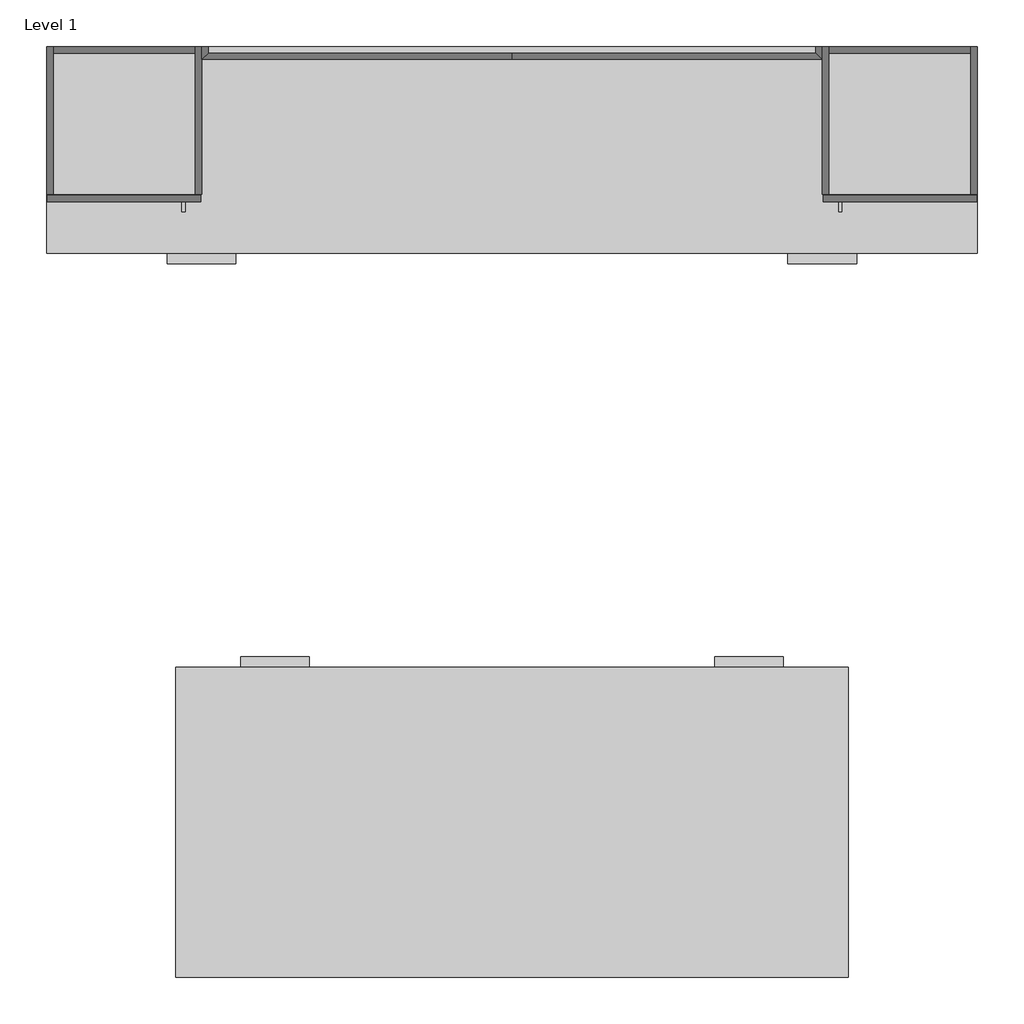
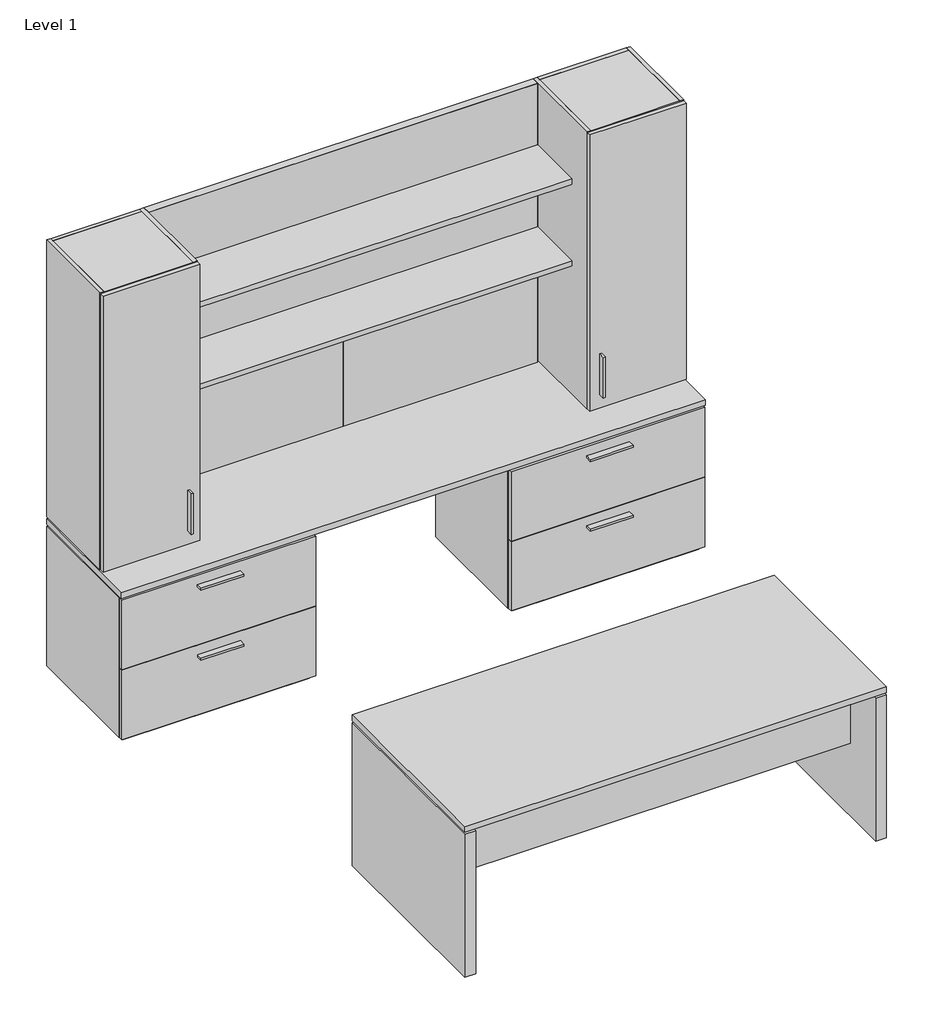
# One storey: 5 proxies.
"""IFC4 building model written with IfcOpenShell, lengths in millimetres."""

import ifcopenshell
import ifcopenshell.guid

model = None  # the IFC model being written
_history = None  # IfcOwnerHistory: only IFC2X3 demands one
_inside = {}  # id of a spatial element -> (the spatial element, [elements in it])
_under = {}  # id of a project, library or spatial element -> (it, [spatial elements below it])
_declared = {}  # id of a project -> (the project, [libraries it declares])
_typed = {}  # id of a type object -> (the type object, [elements of that type])
_made_of = {}  # id of a material, layer set ... -> (it, [elements and type objects made of it])


def new_model(schema):
    """Start an empty IFC model of exactly this schema.

    Asked for "IFC4X3", IfcOpenShell would pick the latest addendum, in which some entities
    have other attributes; the version numbers below select the first issue.
    IFC2X3 requires an IfcOwnerHistory on every rooted entity: one is made here for all.
    """
    global model, _history
    if schema == "IFC4X3":
        model = ifcopenshell.file(schema_version=(4, 3, 0, 0))
    else:
        model = ifcopenshell.file(schema=schema)
    _inside.clear()
    _under.clear()
    _declared.clear()
    _typed.clear()
    _made_of.clear()
    _history = None
    if model.schema == "IFC2X3":
        org = make("IfcOrganization", Name="unknown")
        user = make(
            "IfcPersonAndOrganization",
            ThePerson=make("IfcPerson", FamilyName="unknown"),
            TheOrganization=org,
        )
        app = make(
            "IfcApplication",
            ApplicationDeveloper=org,
            Version="unknown",
            ApplicationFullName="unknown",
            ApplicationIdentifier="unknown",
        )
        _history = make(
            "IfcOwnerHistory",
            OwningUser=user,
            OwningApplication=app,
            ChangeAction="ADDED",
            CreationDate=0,
        )
    return model


def make(cls, **values):
    """One entity of the class cls with the attributes given. An attribute that is None is left unset."""
    return model.create_entity(
        cls, **{name: value for name, value in values.items() if value is not None}
    )


def rooted(cls, **values):
    """An entity with a GlobalId (a new one), such as an element, a storey or a relation."""
    return make(cls, GlobalId=ifcopenshell.guid.new(), OwnerHistory=_history, **values)


def si_unit(unit_type, name, prefix=None):
    """IfcSIUnit, for example si_unit("LENGTHUNIT", "METRE", prefix="MILLI")."""
    return make("IfcSIUnit", UnitType=unit_type, Prefix=prefix, Name=name)


def assignment(units):
    """IfcUnitAssignment: the units of a project."""
    return None if units is None else make("IfcUnitAssignment", Units=units)


def point(xyz):
    """IfcCartesianPoint."""
    return None if xyz is None else make("IfcCartesianPoint", Coordinates=xyz)


def direction(xyz):
    """IfcDirection."""
    return None if xyz is None else make("IfcDirection", DirectionRatios=xyz)


def frame(location, z_axis=None, x_axis=None):
    """IfcAxis2Placement3D, a coordinate frame: its origin and axes. An axis left out is left unset."""
    return make(
        "IfcAxis2Placement3D",
        Location=point(location),
        Axis=direction(z_axis),
        RefDirection=direction(x_axis),
    )


def origin():
    """The frame at (0, 0, 0) with its axes left unset."""
    return frame((0.0, 0.0, 0.0))


def origin_with_axes():
    """The frame at (0, 0, 0) with the z axis (0, 0, 1) and the x axis (1, 0, 0) written out."""
    return frame((0.0, 0.0, 0.0), z_axis=(0.0, 0.0, 1.0), x_axis=(1.0, 0.0, 0.0))


def place(relative_to, where):
    """IfcLocalPlacement: puts the frame where relative to a parent placement (None: the world)."""
    return make(
        "IfcLocalPlacement", PlacementRelTo=relative_to, RelativePlacement=where
    )


def context(
    kind, dimensions, precision=None, world=None, true_north=None, identifier=None
):
    """IfcGeometricRepresentationContext, for example the 3D "Model" context."""
    return make(
        "IfcGeometricRepresentationContext",
        ContextIdentifier=identifier,
        ContextType=kind,
        CoordinateSpaceDimension=dimensions,
        Precision=precision,
        WorldCoordinateSystem=world,
        TrueNorth=true_north,
    )


def project(units=None, contexts=None):
    """IfcProject with its units and contexts."""
    return rooted(
        "IfcProject",
        Name="project",
        RepresentationContexts=contexts,
        UnitsInContext=assignment(units),
    )


def spatial(cls, under=None, at=None, **own):
    """A site, building, storey or space (cls), placed at a placement, below another one or the project."""
    s = rooted(cls, ObjectPlacement=at, **own)
    if under is not None:
        _under.setdefault(under.id(), (under, []))[1].append(s)
    return s


def polyline(points):
    """IfcPolyline through the points."""
    return make("IfcPolyline", Points=[point(p) for p in points])


def outline(outer, holes=None, kind="AREA"):
    """IfcArbitraryClosedProfileDef: a profile drawn as a closed curve; with holes, ...WithVoids."""
    if holes is None:
        return make("IfcArbitraryClosedProfileDef", ProfileType=kind, OuterCurve=outer)
    return make(
        "IfcArbitraryProfileDefWithVoids",
        ProfileType=kind,
        OuterCurve=outer,
        InnerCurves=holes,
    )


def extrude(swept, where, along, depth):
    """IfcExtrudedAreaSolid: the profile swept, set in the frame where, extruded along a direction by depth."""
    return make(
        "IfcExtrudedAreaSolid",
        SweptArea=swept,
        Position=where,
        ExtrudedDirection=direction(along),
        Depth=depth,
    )


def faces_of(points, faces, orient=None, outer=None):
    """IfcFace entities. A face is a list of loops; a loop is a list of indices into points, from 0.

    orient and outer hold one flag for each loop. By default every Orientation is true, the
    first loop of a face is its IfcFaceOuterBound and the others are IfcFaceBound.
    """
    made = []
    for i, loops in enumerate(faces):
        bounds = []
        for j, loop in enumerate(loops):
            is_outer = j == 0 if outer is None else outer[i][j]
            bounds.append(
                make(
                    "IfcFaceOuterBound" if is_outer else "IfcFaceBound",
                    Bound=make("IfcPolyLoop", Polygon=[points[k] for k in loop]),
                    Orientation=True if orient is None else orient[i][j],
                )
            )
        made.append(make("IfcFace", Bounds=bounds))
    return made


def faceted_brep(points, faces, orient=None, outer=None, voids=None):
    """IfcFacetedBrep: a solid bounded by flat faces; with voids (closed shells), ...WithVoids."""
    shared = [point(p) for p in points]
    hull = make("IfcClosedShell", CfsFaces=faces_of(shared, faces, orient, outer))
    if voids is None:
        return make("IfcFacetedBrep", Outer=hull)
    return make(
        "IfcFacetedBrepWithVoids",
        Outer=hull,
        Voids=[
            make(cls, CfsFaces=faces_of(shared, fs, o, b)) for cls, fs, o, b in voids
        ],
    )


def shape(context_of_items, identifier, shape_type, items):
    """IfcShapeRepresentation: the items that make up one representation, for example the "Body"."""
    return make(
        "IfcShapeRepresentation",
        ContextOfItems=context_of_items,
        RepresentationIdentifier=identifier,
        RepresentationType=shape_type,
        Items=items,
    )


def source(mapping_origin, context_of_items, identifier, shape_type, items):
    """IfcRepresentationMap: a shape defined once, which mapped items show again and again."""
    return make(
        "IfcRepresentationMap",
        MappingOrigin=mapping_origin,
        MappedRepresentation=shape(context_of_items, identifier, shape_type, items),
    )


def transform(
    local_origin,
    x_axis=None,
    y_axis=None,
    z_axis=None,
    scale=None,
    scale2=None,
    scale3=None,
    uniform=True,
):
    """IfcCartesianTransformationOperator3D, or its non-uniform kind. x_axis, y_axis, z_axis: its Axis1, 2, 3."""
    if uniform:
        return make(
            "IfcCartesianTransformationOperator3D",
            Axis1=direction(x_axis),
            Axis2=direction(y_axis),
            LocalOrigin=point(local_origin),
            Scale=scale,
            Axis3=direction(z_axis),
        )
    return make(
        "IfcCartesianTransformationOperator3DnonUniform",
        Axis1=direction(x_axis),
        Axis2=direction(y_axis),
        LocalOrigin=point(local_origin),
        Scale=scale,
        Axis3=direction(z_axis),
        Scale2=scale2,
        Scale3=scale3,
    )


def mapped(mapping_source, mapping_target):
    """IfcMappedItem: shows the shape of a source again, moved by a transform."""
    return make(
        "IfcMappedItem", MappingSource=mapping_source, MappingTarget=mapping_target
    )


def made_of(thing, what):
    """Note that an element or type object is made of a material, layer set ...; save() writes the relation."""
    if what is not None:
        _made_of.setdefault(what.id(), (what, []))[1].append(thing)
    return thing


def element(
    cls,
    number,
    at=None,
    inside=None,
    cuts=None,
    type_object=None,
    material=None,
    context=None,
    identifier="Body",
    shape_type=None,
    held_by="IfcProductDefinitionShape",
    body=None,
    shapes=None,
    **own,
):
    """One element of the class cls, such as IfcWall. Its Tag is "e" and its number.

    at: its placement. inside: the storey or other place that contains it. cuts: it is an
    opening in that element (IfcRelVoidsElement). A single representation is given by context,
    identifier, shape_type and body (its items); several are given by shapes. held_by: the class
    of the entity that holds the representations. save() writes the other relations.
    """
    e = rooted(cls, Tag="e%d" % number, ObjectPlacement=at, **own)
    if body is not None:
        shapes = [shape(context, identifier, shape_type, body)]
    if shapes is not None:
        e.Representation = make(held_by, Representations=shapes)
    if inside is not None:
        _inside.setdefault(inside.id(), (inside, []))[1].append(e)
    if cuts is not None:
        rooted(
            "IfcRelVoidsElement", RelatingBuildingElement=cuts, RelatedOpeningElement=e
        )
    if type_object is not None:
        _typed.setdefault(type_object.id(), (type_object, []))[1].append(e)
    return made_of(e, material)


def aggregate(whole, parts):
    """IfcRelAggregates: a whole, such as a stair, and the parts it consists of."""
    return rooted("IfcRelAggregates", RelatingObject=whole, RelatedObjects=parts)


def save(model, path):
    """Write the relations noted so far, then the file.

    IfcRelAggregates (storeys below a building ...), IfcRelContainedInSpatialStructure (elements
    in a storey), IfcRelDefinesByType, IfcRelAssociatesMaterial and IfcRelDeclares: one each for
    every whole, place, type object, material and project.
    """
    for whole, parts in _under.values():
        aggregate(whole, parts)
    for where, things in _inside.values():
        rooted(
            "IfcRelContainedInSpatialStructure",
            RelatedElements=things,
            RelatingStructure=where,
        )
    for kind, things in _typed.values():
        rooted("IfcRelDefinesByType", RelatedObjects=things, RelatingType=kind)
    for what, things in _made_of.values():
        rooted("IfcRelAssociatesMaterial", RelatedObjects=things, RelatingMaterial=what)
    for by, libraries in _declared.values():
        rooted("IfcRelDeclares", RelatingContext=by, RelatedDefinitions=libraries)
    model.write(path)


def generic_models_d165ae00(model_context):
    return source(origin(), model_context, "Body", "SweptSolid", [
        extrude(outline(polyline([(876.9020604, -34.6129133), (-1028.0979396, -34.6129133), (-1028.0979396, -6.0379133), (876.9020604, -6.0379133), (876.9020604, -34.6129133)])), frame((0.0, 0.0, 79.1004515), z_axis=(0.0, 0.0, 1.0), x_axis=(1.0, 0.0, 0.0)), (0.0, 0.0, 1.0), 25.4),
        extrude(outline(polyline([(-1015.3979396, -15.5629133), (-1015.3979396, -726.7629133), (-1066.1979396, -726.7629133), (-1066.1979396, -15.5629133), (-1015.3979396, -15.5629133)])), frame((0.0, 0.0, -589.2370485), z_axis=(0.0, 0.0, 1.0), x_axis=(1.0, 0.0, 0.0)), (0.0, 0.0, 1.0), 914.4),
        extrude(outline(polyline([(-672.7010646, -71.3629133), (-874.7010646, -71.3629133), (-874.7010646, -61.3629133), (-672.7010646, -61.3629133), (-672.7010646, -71.3629133)])), frame((0.0, 0.0, -619.2370485), z_axis=(0.0, 0.0, 1.0), x_axis=(1.0, 0.0, 0.0)), (0.0, 0.0, 1.0), 30.0),
        extrude(outline(polyline([(85.4504515, -996.3479396), (104.5004515, -1015.3979396), (-567.0120485, -1015.3979396), (-567.0120485, -996.3479396), (85.4504515, -996.3479396)])), frame((0.0, -362.9079133, 0.0), z_axis=(0.0, 1.0, 0.0), x_axis=(0.0, 0.0, 1.0)), (0.0, 0.0, 1.0), 347.345),
        extrude(outline(polyline([(104.5004515, -1015.3979396), (-133.6245485, -777.2729396), (104.5004515, -539.1479396), (104.5004515, -1015.3979396)])), frame((0.0, -362.9079133, 0.0), z_axis=(0.0, 1.0, 0.0), x_axis=(0.0, 0.0, 1.0)), (0.0, 0.0, 1.0), 328.295),
        extrude(outline(polyline([(-558.1979396, -343.8579133), (-558.1979396, -362.9079133), (-996.3479396, -362.9079133), (-996.3479396, -343.8579133), (-558.1979396, -343.8579133)])), frame((0.0, 0.0, -567.0120485), z_axis=(0.0, 0.0, 1.0), x_axis=(1.0, 0.0, 0.0)), (0.0, 0.0, 1.0), 652.4625),
        extrude(outline(polyline([(-1005.8729396, -188.0447883), (-1005.8729396, -15.5629133), (-541.5291896, -15.5629133), (-541.5291896, -188.0447883), (-1005.8729396, -188.0447883)])), frame((0.0, 0.0, -589.2370485), z_axis=(0.0, 0.0, 1.0), x_axis=(1.0, 0.0, 0.0)), (0.0, 0.0, 1.0), 19.05),
        extrude(outline(polyline([(104.5004515, -539.1479396), (85.4504515, -558.1979396), (-567.0120485, -558.1979396), (-567.0120485, -539.1479396), (104.5004515, -539.1479396)])), frame((0.0, -362.9079133, 0.0), z_axis=(0.0, 1.0, 0.0), x_axis=(0.0, 0.0, 1.0)), (0.0, 0.0, 1.0), 347.345),
        extrude(outline(polyline([(-541.5291896, -190.4260383), (-541.5291896, -362.9079133), (-1005.8729396, -362.9079133), (-1005.8729396, -190.4260383), (-541.5291896, -190.4260383)])), frame((0.0, 0.0, -589.2370485), z_axis=(0.0, 0.0, 1.0), x_axis=(1.0, 0.0, 0.0)), (0.0, 0.0, 1.0), 19.05),
        extrude(outline(polyline([(-672.7010646, -246.2260383), (-874.7010646, -246.2260383), (-874.7010646, -236.2260383), (-672.7010646, -236.2260383), (-672.7010646, -246.2260383)])), frame((0.0, 0.0, -619.2370485), z_axis=(0.0, 0.0, 1.0), x_axis=(1.0, 0.0, 0.0)), (0.0, 0.0, 1.0), 30.0),
        extrude(outline(polyline([(864.2020604, -15.5629133), (864.2020604, -362.9079133), (-1015.3979396, -362.9079133), (-1015.3979396, -15.5629133), (864.2020604, -15.5629133)])), frame((0.0, 0.0, 104.5004515), z_axis=(0.0, 0.0, 1.0), x_axis=(1.0, 0.0, 0.0)), (0.0, 0.0, 1.0), 15.875),
        extrude(outline(polyline([(723.5051854, -71.3629133), (521.5051854, -71.3629133), (521.5051854, -61.3629133), (723.5051854, -61.3629133), (723.5051854, -71.3629133)])), frame((0.0, 0.0, -619.2370485), z_axis=(0.0, 0.0, 1.0), x_axis=(1.0, 0.0, 0.0)), (0.0, 0.0, 1.0), 30.0),
        extrude(outline(polyline([(85.4504515, 407.0020604), (104.5004515, 387.9520604), (-567.0120485, 387.9520604), (-567.0120485, 407.0020604), (85.4504515, 407.0020604)])), frame((0.0, -362.9079133, 0.0), z_axis=(0.0, 1.0, 0.0), x_axis=(0.0, 0.0, 1.0)), (0.0, 0.0, 1.0), 347.345),
        extrude(outline(polyline([(104.5004515, 387.9520604), (-133.6245485, 626.0770604), (104.5004515, 864.2020604), (104.5004515, 387.9520604)])), frame((0.0, -362.9079133, 0.0), z_axis=(0.0, 1.0, 0.0), x_axis=(0.0, 0.0, 1.0)), (0.0, 0.0, 1.0), 328.295),
        extrude(outline(polyline([(845.1520604, -343.8579133), (845.1520604, -362.9079133), (407.0020604, -362.9079133), (407.0020604, -343.8579133), (845.1520604, -343.8579133)])), frame((0.0, 0.0, -567.0120485), z_axis=(0.0, 0.0, 1.0), x_axis=(1.0, 0.0, 0.0)), (0.0, 0.0, 1.0), 652.4625),
        extrude(outline(polyline([(390.3333104, -362.9079133), (390.3333104, -15.5629133), (854.6770604, -15.5629133), (854.6770604, -362.9079133), (390.3333104, -362.9079133)])), frame((0.0, 0.0, -589.2370485), z_axis=(0.0, 0.0, 1.0), x_axis=(1.0, 0.0, 0.0)), (0.0, 0.0, 1.0), 19.05),
        extrude(outline(polyline([(104.5004515, 864.2020604), (85.4504515, 845.1520604), (-567.0120485, 845.1520604), (-567.0120485, 864.2020604), (104.5004515, 864.2020604)])), frame((0.0, -362.9079133, 0.0), z_axis=(0.0, 1.0, 0.0), x_axis=(0.0, 0.0, 1.0)), (0.0, 0.0, 1.0), 347.345),
        extrude(outline(polyline([(915.0020604, -6.0379133), (-1066.1979396, -6.0379133), (-1066.1979396, 22.5370867), (915.0020604, 22.5370867), (915.0020604, -6.0379133)])), frame((0.0, 0.0, -589.2370485), z_axis=(0.0, 0.0, 1.0), x_axis=(1.0, 0.0, 0.0)), (0.0, 0.0, 1.0), 914.4),
        extrude(outline(polyline([(-1047.1479396, -6.0379133), (-1015.3979396, -6.0379133), (-1015.3979396, -15.5629133), (-1047.1479396, -15.5629133), (-1047.1479396, -6.0379133)])), frame((0.0, 0.0, -570.1870485), z_axis=(0.0, 0.0, 1.0), x_axis=(1.0, 0.0, 0.0)), (0.0, 0.0, 1.0), 876.3),
        extrude(outline(polyline([(915.0020604, -15.5629133), (915.0020604, -726.7629133), (864.2020604, -726.7629133), (864.2020604, -15.5629133), (915.0020604, -15.5629133)])), frame((0.0, 0.0, -589.2370485), z_axis=(0.0, 0.0, 1.0), x_axis=(1.0, 0.0, 0.0)), (0.0, 0.0, 1.0), 914.4),
        extrude(outline(polyline([(895.9520604, -15.5629133), (864.2020604, -15.5629133), (864.2020604, -6.0379133), (895.9520604, -6.0379133), (895.9520604, -15.5629133)])), frame((0.0, 0.0, -570.1870485), z_axis=(0.0, 0.0, 1.0), x_axis=(1.0, 0.0, 0.0)), (0.0, 0.0, 1.0), 876.3),
    ])


def generic_models_ba3b5827(model_context):
    return source(origin(), model_context, "Body", "SweptSolid", [
        extrude(outline(polyline([(58.18125, 278.2), (58.18125, 76.2), (48.18125, 76.2), (48.18125, 278.2), (58.18125, 278.2)])), frame((0.0, 0.0, 457.2), z_axis=(0.0, 0.0, 1.0), x_axis=(1.0, 0.0, 0.0)), (0.0, 0.0, 1.0), 30.0),
        extrude(outline(polyline([(19.05, 9.525), (0.0, 9.525), (0.0, 1384.3), (19.05, 1384.3), (19.05, 9.525)])), origin_with_axes(), (0.0, 0.0, 1.0), 434.975),
        extrude(outline(polyline([(457.2, 9.525), (438.15, 9.525), (438.15, 1384.3), (457.2, 1384.3), (457.2, 9.525)])), origin_with_axes(), (0.0, 0.0, 1.0), 434.975),
        extrude(outline(polyline([(454.81875, 9.525), (2.38125, 9.525), (2.38125, 1381.91875), (454.81875, 1381.91875), (454.81875, 9.525)])), frame((0.0, 0.0, 438.15), z_axis=(0.0, 0.0, 1.0), x_axis=(1.0, 0.0, 0.0)), (0.0, 0.0, 1.0), 19.05),
        extrude(outline(polyline([(438.15, 1384.3), (438.15, 0.0), (19.05, 0.0), (19.05, 1384.3), (438.15, 1384.3)])), origin_with_axes(), (0.0, 0.0, 1.0), 19.05),
        extrude(outline(polyline([(438.15, 19.05), (438.15, 0.0), (19.05, 0.0), (19.05, 19.05), (438.15, 19.05)])), frame((0.0, 0.0, 19.05), z_axis=(0.0, 0.0, 1.0), x_axis=(1.0, 0.0, 0.0)), (0.0, 0.0, 1.0), 415.925),
        extrude(outline(polyline([(19.05, 1365.25), (19.05, 1384.3), (438.15, 1384.3), (438.15, 1365.25), (19.05, 1365.25)])), frame((0.0, 0.0, 19.05), z_axis=(0.0, 0.0, 1.0), x_axis=(1.0, 0.0, 0.0)), (0.0, 0.0, 1.0), 415.925),
    ])


def generic_models_622447a6(model_context):
    return source(origin(), model_context, "Body", "SolidModel", [
        faceted_brep([(1828.8, -736.6, 19.05), (1809.75, -736.6, 0.0), (1809.75, -736.6, -19.05), (1828.8, -736.6, -19.05), (1828.8, 0.0, -19.05), (1828.8, 0.0, 19.05), (1809.75, -19.05, 0.0), (1809.75, -19.05, -19.05)], [[[0, 1, 2, 3]], [[4, 5, 0, 3]], [[5, 6, 1, 0]], [[6, 7, 2, 1]], [[7, 4, 3, 2]], [[6, 5, 4, 7]]]),
        faceted_brep([(19.05, -736.6, 0.0), (0.0, -736.6, 19.05), (0.0, -736.6, -19.05), (19.05, -736.6, -19.05), (19.05, -19.05, -19.05), (19.05, -19.05, 0.0), (0.0, 0.0, 19.05), (0.0, 0.0, -19.05)], [[[0, 1, 2, 3]], [[4, 5, 0, 3]], [[5, 6, 1, 0]], [[6, 7, 2, 1]], [[7, 4, 3, 2]], [[6, 5, 4, 7]]]),
        extrude(outline(polyline([(1828.8, -711.2), (1828.8, -736.6), (0.0, -736.6), (0.0, -711.2), (1828.8, -711.2)])), frame((0.0, 0.0, 19.05), z_axis=(0.0, 0.0, 1.0), x_axis=(1.0, 0.0, 0.0)), (0.0, 0.0, 1.0), 279.4),
        extrude(outline(polyline([(1828.8, -330.2), (0.0, -330.2), (0.0, -304.8), (1828.8, -304.8), (1828.8, -330.2)])), frame((0.0, 0.0, 19.05), z_axis=(0.0, 0.0, 1.0), x_axis=(1.0, 0.0, 0.0)), (0.0, 0.0, 1.0), 279.4),
        extrude(outline(polyline([(0.0, 1808.95625), (19.05, 1828.00625), (19.05, 914.796875), (0.0, 914.796875), (0.0, 1808.95625)])), frame((0.0, -1383.50625, 0.0), z_axis=(0.0, 1.0, 0.0), x_axis=(0.0, 0.0, 1.0)), (0.0, 0.0, 1.0), 646.1125),
        extrude(outline(polyline([(19.05, 0.79375), (-19.05, 0.79375), (-19.05, 19.84375), (0.0, 19.84375), (19.05, 0.79375)])), frame((0.0, -1383.50625, 0.0), z_axis=(0.0, 1.0, 0.0), x_axis=(0.0, 0.0, 1.0)), (0.0, 0.0, 1.0), 646.1125),
        faceted_brep([(0.0, 0.0, -19.05), (19.05, -19.05, -19.05), (19.05, -19.05, 0.0), (0.0, 0.0, 19.05), (1809.75, -19.05, -19.05), (1809.75, -19.05, 0.0), (1828.8, 0.0, -19.05), (1828.8, 0.0, 19.05)], [[[0, 1, 2, 3]], [[2, 1, 4, 5]], [[1, 0, 6, 4]], [[4, 6, 7, 5]], [[0, 3, 7, 6]], [[3, 2, 5, 7]]]),
        extrude(outline(polyline([(-19.05, 1808.95625), (-19.05, 1828.00625), (19.05, 1828.00625), (0.0, 1808.95625), (-19.05, 1808.95625)])), frame((0.0, -1383.50625, 0.0), z_axis=(0.0, 1.0, 0.0), x_axis=(0.0, 0.0, 1.0)), (0.0, 0.0, 1.0), 646.1125),
        extrude(outline(polyline([(19.05, 0.79375), (0.0, 19.84375), (0.0, 914.003125), (19.05, 914.003125), (19.05, 0.79375)])), frame((0.0, -1383.50625, 0.0), z_axis=(0.0, 1.0, 0.0), x_axis=(0.0, 0.0, 1.0)), (0.0, 0.0, 1.0), 646.1125),
        faceted_brep([(1809.75, -736.6, 0.0), (1828.8, -736.6, 19.05), (0.0, -736.6, 19.05), (19.05, -736.6, 0.0), (0.0, 0.0, 19.05), (19.05, -19.05, 0.0), (1809.75, -19.05, 0.0), (1828.8, 0.0, 19.05)], [[[0, 1, 2, 3]], [[2, 4, 5, 3]], [[3, 5, 6, 0]], [[5, 4, 7, 6]], [[6, 7, 1, 0]], [[1, 7, 4, 2]]]),
    ])


def generic_models_c772a571(model_context):
    return source(origin(), model_context, "Body", "SweptSolid", [
        extrude(outline(polyline([(409.01875, 278.2), (409.01875, 76.2), (399.01875, 76.2), (399.01875, 278.2), (409.01875, 278.2)])), frame((0.0, 0.0, 457.2), z_axis=(0.0, 0.0, 1.0), x_axis=(1.0, 0.0, 0.0)), (0.0, 0.0, 1.0), 30.0),
        extrude(outline(polyline([(19.05, 9.525), (0.0, 9.525), (0.0, 1384.3), (19.05, 1384.3), (19.05, 9.525)])), origin_with_axes(), (0.0, 0.0, 1.0), 434.975),
        extrude(outline(polyline([(457.2, 9.525), (438.15, 9.525), (438.15, 1384.3), (457.2, 1384.3), (457.2, 9.525)])), origin_with_axes(), (0.0, 0.0, 1.0), 434.975),
        extrude(outline(polyline([(454.81875, 9.525), (2.38125, 9.525), (2.38125, 1381.91875), (454.81875, 1381.91875), (454.81875, 9.525)])), frame((0.0, 0.0, 438.15), z_axis=(0.0, 0.0, 1.0), x_axis=(1.0, 0.0, 0.0)), (0.0, 0.0, 1.0), 19.05),
        extrude(outline(polyline([(438.15, 1384.3), (438.15, 0.0), (19.05, 0.0), (19.05, 1384.3), (438.15, 1384.3)])), origin_with_axes(), (0.0, 0.0, 1.0), 19.05),
        extrude(outline(polyline([(438.15, 19.05), (438.15, 0.0), (19.05, 0.0), (19.05, 19.05), (438.15, 19.05)])), frame((0.0, 0.0, 19.05), z_axis=(0.0, 0.0, 1.0), x_axis=(1.0, 0.0, 0.0)), (0.0, 0.0, 1.0), 415.925),
        extrude(outline(polyline([(19.05, 1365.25), (19.05, 1384.3), (438.15, 1384.3), (438.15, 1365.25), (19.05, 1365.25)])), frame((0.0, 0.0, 19.05), z_axis=(0.0, 0.0, 1.0), x_axis=(1.0, 0.0, 0.0)), (0.0, 0.0, 1.0), 415.925),
    ])


def generic_models_c0b92d67(model_context):
    return source(origin(), model_context, "Body", "SweptSolid", [
        extrude(outline(polyline([(356.2, 665.4), (558.2, 665.4), (558.2, 655.4), (356.2, 655.4), (356.2, 665.4)])), frame((0.0, 0.0, 609.6), z_axis=(0.0, 0.0, 1.0), x_axis=(1.0, 0.0, 0.0)), (0.0, 0.0, 1.0), 30.0),
        extrude(outline(polyline([(2185.0, 318.134375), (2387.0, 318.134375), (2387.0, 308.134375), (2185.0, 308.134375), (2185.0, 318.134375)])), frame((0.0, 0.0, 609.6), z_axis=(0.0, 0.0, 1.0), x_axis=(1.0, 0.0, 0.0)), (0.0, 0.0, 1.0), 30.0),
        extrude(outline(polyline([(2185.0, 665.4), (2387.0, 665.4), (2387.0, 655.4), (2185.0, 655.4), (2185.0, 665.4)])), frame((0.0, 0.0, 609.6), z_axis=(0.0, 0.0, 1.0), x_axis=(1.0, 0.0, 0.0)), (0.0, 0.0, 1.0), 30.0),
        extrude(outline(polyline([(1847.85, 720.725), (2724.15, 720.725), (2724.15, 692.15), (1847.85, 692.15), (1847.85, 720.725)])), frame((0.0, 0.0, 19.05), z_axis=(0.0, 0.0, 1.0), x_axis=(1.0, 0.0, 0.0)), (0.0, 0.0, 1.0), 568.325),
        extrude(outline(polyline([(2724.15, 19.05), (1847.85, 19.05), (1847.85, 711.2), (2724.15, 711.2), (2724.15, 19.05)])), origin_with_axes(), (0.0, 0.0, 1.0), 19.05),
        extrude(outline(polyline([(912.01875, 711.2), (912.01875, 366.315625), (2.38125, 366.315625), (2.38125, 711.2), (912.01875, 711.2)])), frame((0.0, 0.0, 590.55), z_axis=(0.0, 0.0, 1.0), x_axis=(1.0, 0.0, 0.0)), (0.0, 0.0, 1.0), 19.05),
        extrude(outline(polyline([(2740.81875, 711.2), (2740.81875, 366.315625), (1831.18125, 366.315625), (1831.18125, 711.2), (2740.81875, 711.2)])), frame((0.0, 0.0, 590.55), z_axis=(0.0, 0.0, 1.0), x_axis=(1.0, 0.0, 0.0)), (0.0, 0.0, 1.0), 19.05),
        extrude(outline(polyline([(2.38125, 19.05), (2.38125, 363.934375), (912.01875, 363.934375), (912.01875, 19.05), (2.38125, 19.05)])), frame((0.0, 0.0, 590.55), z_axis=(0.0, 0.0, 1.0), x_axis=(1.0, 0.0, 0.0)), (0.0, 0.0, 1.0), 19.05),
        extrude(outline(polyline([(1831.18125, 363.934375), (2740.81875, 363.934375), (2740.81875, 19.05), (1831.18125, 19.05), (1831.18125, 363.934375)])), frame((0.0, 0.0, 590.55), z_axis=(0.0, 0.0, 1.0), x_axis=(1.0, 0.0, 0.0)), (0.0, 0.0, 1.0), 19.05),
        extrude(outline(polyline([(914.4, 19.05), (895.35, 19.05), (895.35, 720.725), (914.4, 720.725), (914.4, 19.05)])), origin_with_axes(), (0.0, 0.0, 1.0), 587.375),
        extrude(outline(polyline([(1847.85, 19.05), (1828.8, 19.05), (1828.8, 711.2), (1847.85, 711.2), (1847.85, 19.05)])), origin_with_axes(), (0.0, 0.0, 1.0), 587.375),
        extrude(outline(polyline([(0.0, 711.2), (19.05, 711.2), (19.05, 19.05), (0.0, 19.05), (0.0, 711.2)])), origin_with_axes(), (0.0, 0.0, 1.0), 587.375),
        extrude(outline(polyline([(2724.15, 711.2), (2743.2, 711.2), (2743.2, 19.05), (2724.15, 19.05), (2724.15, 711.2)])), origin_with_axes(), (0.0, 0.0, 1.0), 587.375),
        extrude(outline(polyline([(19.05, 720.725), (895.35, 720.725), (895.35, 692.15), (19.05, 692.15), (19.05, 720.725)])), frame((0.0, 0.0, 19.05), z_axis=(0.0, 0.0, 1.0), x_axis=(1.0, 0.0, 0.0)), (0.0, 0.0, 1.0), 568.325),
        extrude(outline(polyline([(895.35, 19.05), (19.05, 19.05), (19.05, 711.2), (895.35, 711.2), (895.35, 19.05)])), origin_with_axes(), (0.0, 0.0, 1.0), 19.05),
        extrude(outline(polyline([(2743.2, 720.725), (0.0, 720.725), (0.0, 749.3), (2743.2, 749.3), (2743.2, 720.725)])), origin_with_axes(), (0.0, 0.0, 1.0), 609.6),
        extrude(outline(polyline([(895.35, 38.1), (895.35, 0.0), (19.05, 0.0), (19.05, 38.1), (895.35, 38.1)])), frame((0.0, 0.0, 19.05), z_axis=(0.0, 0.0, 1.0), x_axis=(1.0, 0.0, 0.0)), (0.0, 0.0, 1.0), 568.325),
        extrude(outline(polyline([(2724.15, 38.1), (2724.15, 0.0), (1847.85, 0.0), (1847.85, 38.1), (2724.15, 38.1)])), frame((0.0, 0.0, 19.05), z_axis=(0.0, 0.0, 1.0), x_axis=(1.0, 0.0, 0.0)), (0.0, 0.0, 1.0), 568.325),
        extrude(outline(polyline([(356.2, 318.134375), (558.2, 318.134375), (558.2, 308.134375), (356.2, 308.134375), (356.2, 318.134375)])), frame((0.0, 0.0, 609.6), z_axis=(0.0, 0.0, 1.0), x_axis=(1.0, 0.0, 0.0)), (0.0, 0.0, 1.0), 30.0),
    ])


model = new_model("IFC4")

# Units and contexts
model_context = context("Model", 3, world=origin())
ifc_project = project(units=[si_unit("LENGTHUNIT", "METRE", prefix="MILLI")], contexts=[model_context])

# Site, building, storey
site = spatial("IfcSite", under=ifc_project)
building = spatial("IfcBuilding", under=site)
storey = spatial("IfcBuildingStorey", under=building, Name="Level 1", Elevation=0.0)

# Proxies
placement = place(None, origin())
generic_models_shape = generic_models_d165ae00(model_context)
element("IfcBuildingElementProxy", 1, Name="BASYS^OFFICE 5_DESK-36in LOOP BASESiam", ObjectType="BASYS^OFFICE 5_DESK-36in LOOP BASESiam", at=placement, inside=storey, context=model_context, shape_type="MappedRepresentation", body=[
    mapped(generic_models_shape, transform((1447.1979396, -2418.0370485, 726.7629133), x_axis=(1.0, 0.0, 0.0), y_axis=(0.0, 0.0, 1.0), z_axis=(0.0, -1.0, 0.0))),
])
generic_models_2_shape = generic_models_ba3b5827(model_context)
element("IfcBuildingElementProxy", 2, Name="BASYS^OFFICE 5_WARDROBE-18x18x55-RIGHT END", ObjectType="BASYS^OFFICE 5_WARDROBE-18x18x55-RIGHT END", at=placement, inside=storey, context=model_context, shape_type="MappedRepresentation", body=[
    mapped(generic_models_2_shape, transform((2286.0, 0.0, 749.3), x_axis=(1.0, 0.0, 0.0), y_axis=(0.0, 0.0, 1.0), z_axis=(0.0, -1.0, 0.0))),
])
generic_models_3_shape = generic_models_622447a6(model_context)
element("IfcBuildingElementProxy", 3, Name="BASYS^OFFICE 5_WALL HUNGS-1.50x48.50x72-FIXED SHELVES W LIGHT", ObjectType="BASYS^OFFICE 5_WALL HUNGS-1.50x48.50x72-FIXED SHELVES W LIGHT", at=placement, inside=storey, context=model_context, shape_type="MappedRepresentation", body=[
    mapped(generic_models_3_shape, transform((457.2, -19.05, 2133.6), x_axis=(1.0, 0.0, 0.0), y_axis=(0.0, 0.0, 1.0), z_axis=(0.0, -1.0, 0.0))),
])
generic_models_4_shape = generic_models_c772a571(model_context)
element("IfcBuildingElementProxy", 4, Name="BASYS^OFFICE 5_WARDROBE-18x18x55-LEFT END", ObjectType="BASYS^OFFICE 5_WARDROBE-18x18x55-LEFT END", at=placement, inside=storey, context=model_context, shape_type="MappedRepresentation", body=[
    mapped(generic_models_4_shape, transform((0.0, 0.0, 749.3), x_axis=(1.0, 0.0, 0.0), y_axis=(0.0, 0.0, 1.0), z_axis=(0.0, -1.0, 0.0))),
])
generic_models_5_shape = generic_models_c0b92d67(model_context)
element("IfcBuildingElementProxy", 5, Name="BASYS^OFFICE 5_CREDENZA 3B 29-108 FILE FKF STORAGE", ObjectType="BASYS^OFFICE 5_CREDENZA 3B 29-108 FILE FKF STORAGE", at=placement, inside=storey, context=model_context, shape_type="MappedRepresentation", body=[
    mapped(generic_models_5_shape, transform((0.0, 0.0, 0.0), x_axis=(1.0, 0.0, 0.0), y_axis=(0.0, 0.0, 1.0), z_axis=(0.0, -1.0, 0.0))),
])

save(model, "model.ifc")
